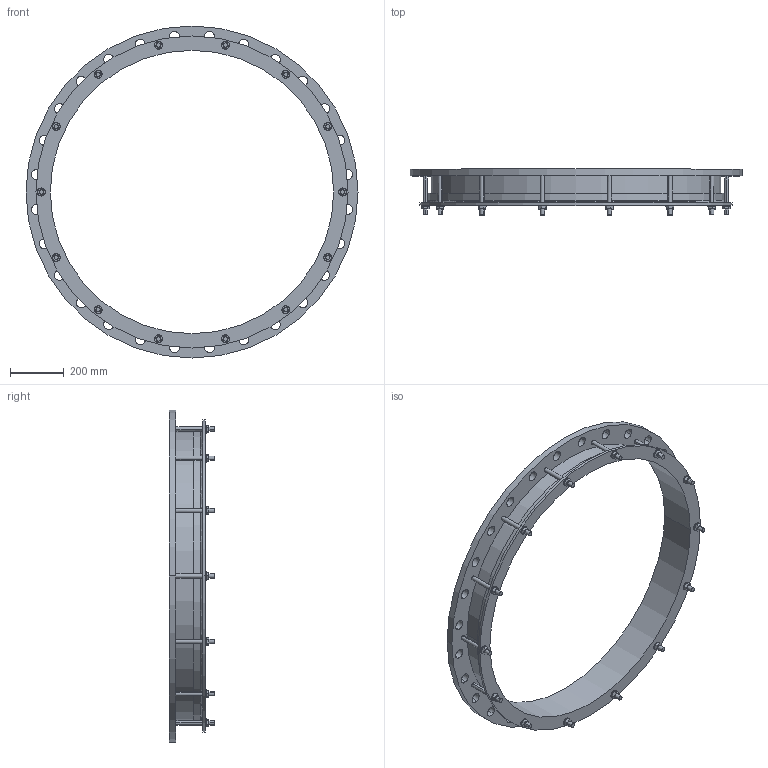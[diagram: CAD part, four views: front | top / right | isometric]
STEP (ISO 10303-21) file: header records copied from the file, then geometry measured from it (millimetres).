
FILE_DESCRIPTION((''),'2;1');
FILE_NAME('1048X1000PN10','2019-01-17T',('mfairey'),('Glynwed Pipe Systems'),'CREO PARAMETRIC BY PTC INC, 2016130','CREO PARAMETRIC BY PTC INC, 2016130','');
FILE_SCHEMA(('CONFIG_CONTROL_DESIGN'));
Length unit declared in the file: millimetre
Products named in the file (1): 1048X1000PN10
Bounding box: 1230 x 169 x 1230 mm (x, y, z)
Volume: 14756419.8 mm3; surface area: 1946135.8 mm2
Topology: 1 solids, 1 shells, 284 faces, 752 edges, 500 vertices
Faces by surface type: cylinder 148, plane 130, cone 4, torus 2
Entity records: 10042 total; most frequent: CARTESIAN_POINT 2596, DIRECTION 1548, ORIENTED_EDGE 1504, EDGE_CURVE 752, AXIS2_PLACEMENT_3D 572, VERTEX_POINT 500, VECTOR 404, LINE 404
